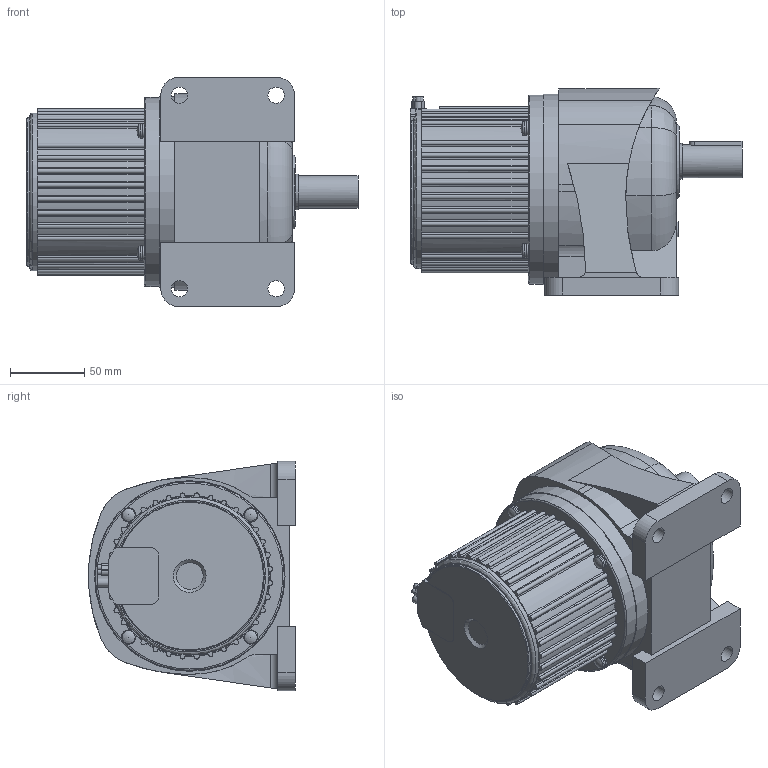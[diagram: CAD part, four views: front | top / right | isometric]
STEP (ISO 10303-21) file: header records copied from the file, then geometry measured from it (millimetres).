
FILE_DESCRIPTION( ( 'STEP AP203' ), ' ' );
FILE_NAME( 'p:/temp/worker_24/3332_1400/app_75_12018010810354720232518818fa3fd_000000_00_00_000000/format_0/VGLC22-5N400L2.stp', '2018-01-08T09:35:48', ( '' ), ( '' ), ' ', 'PARTsolutions', ' ' );
FILE_SCHEMA( ( 'CONFIG_CONTROL_DESIGN' ) );
Length unit declared in the file: millimetre
Products named in the file (5): VGLC22-5N400L2; _GL22-No; _SP022C; _M105VP-04DC_Motor case; _KEY 22
Assembly tree (4 placements, depth 2):
  VGLC22-5N400L2
    _GL22-No
    _SP022C
    _M105VP-04DC_Motor case
    _KEY 22
Bounding box: 223 x 138.97 x 154 mm (x, y, z)
Volume: 2239556 mm3; surface area: 179966.5 mm2
Topology: 4 solids, 4 shells, 444 faces, 1266 edges, 839 vertices
Faces by surface type: cylinder 204, plane 180, torus 51, sphere 4, cone 3, bspline 2
Full cylindrical faces by diameter (mm): 3.5 x3, 6 x1, 11 x4, 22 x1, 24 x1, 127 x1, 128 x1
Entity records: 15502 total; most frequent: CARTESIAN_POINT 3703, DIRECTION 2481, ORIENTED_EDGE 2458, EDGE_CURVE 1229, AXIS2_PLACEMENT_3D 936, VERTEX_POINT 829, LINE 609, VECTOR 609
